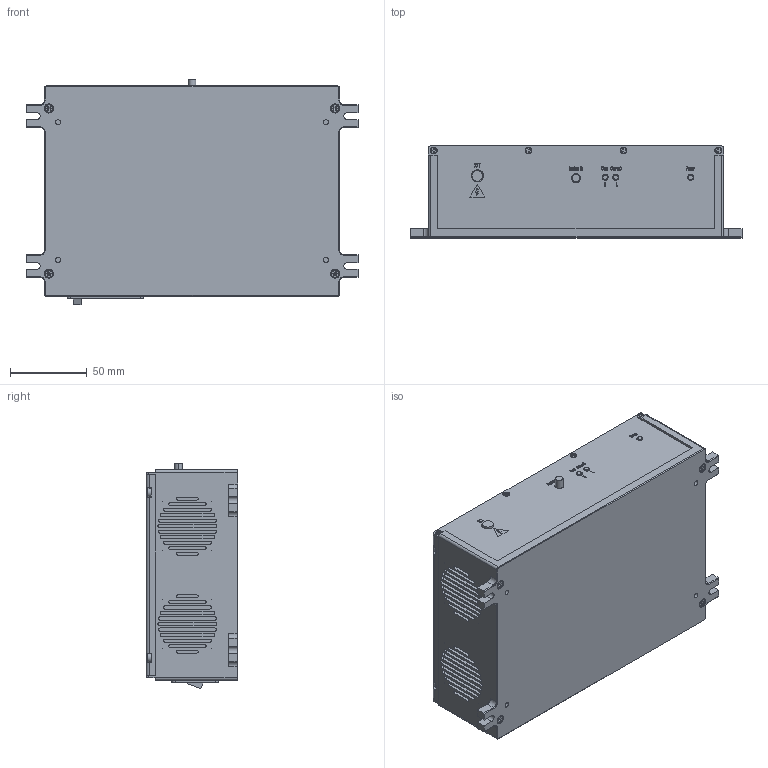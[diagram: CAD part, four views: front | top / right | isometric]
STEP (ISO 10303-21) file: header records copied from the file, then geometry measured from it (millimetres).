
FILE_DESCRIPTION (( 'STEP AP203' ), '1' );
FILE_NAME ('E52.A1K-H萇埭3D耀倰2021.09.27.STEP', '2021-09-27T01:05:18', ( 'Micorosoft' ), ( 'Micorosoft' ), 'SwSTEP 2.0', 'SolidWorks 2016', '' );
FILE_SCHEMA (( 'CONFIG_CONTROL_DESIGN' ));
Products named in the file (1): E52.A1K-H萇埭3D耀倰2021.09.27
Bounding box: 217 x 60 x 147.24 mm (x, y, z)
Volume: 1650753.7 mm3; surface area: 168737.5 mm2
Topology: 20 solids, 20 shells, 1727 faces, 4663 edges, 3019 vertices
Faces by surface type: plane 929, cylinder 383, bspline 270, cone 137, torus 8
Entity records: 66401 total; most frequent: CARTESIAN_POINT 24251, ORIENTED_EDGE 9182, DIRECTION 7935, EDGE_CURVE 4591, VERTEX_POINT 3019, VECTOR 2975, LINE 2975, AXIS2_PLACEMENT_3D 2480
